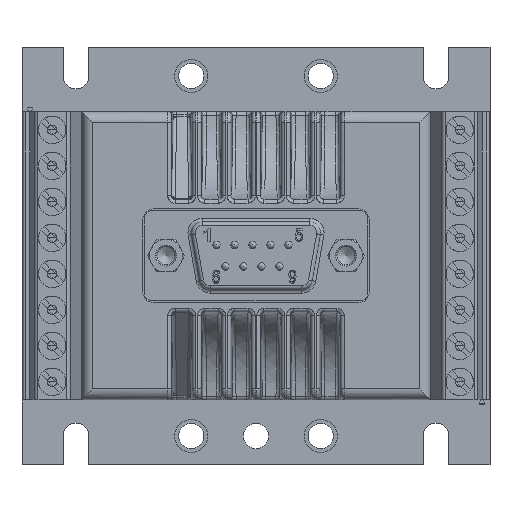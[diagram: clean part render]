
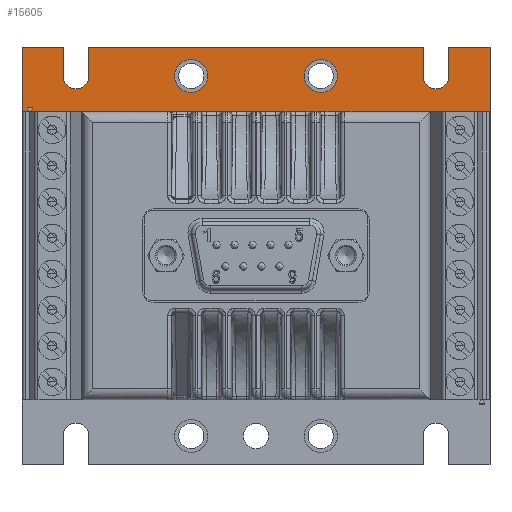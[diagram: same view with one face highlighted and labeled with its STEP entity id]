
A CAD part, top view. The second image highlights one B-rep face of the part: STEP entity #15605.
In plain terms, the highlighted planar face has unit normal (0, 0, 1).
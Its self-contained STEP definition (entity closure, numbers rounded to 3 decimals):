
#10195=PLANE('',#34053);
#11112=LINE('',#44232,#13349);
#11113=LINE('',#44235,#13350);
#11114=LINE('',#44237,#13351);
#11115=LINE('',#44239,#13352);
#11116=LINE('',#44243,#13353);
#11117=LINE('',#44245,#13354);
#11118=LINE('',#44247,#13355);
#11119=LINE('',#44251,#13356);
#11120=LINE('',#44253,#13357);
#11121=LINE('',#44255,#13358);
#13349=VECTOR('',#36703,1.);
#13350=VECTOR('',#36704,1.);
#13351=VECTOR('',#36705,1.);
#13352=VECTOR('',#36706,1.);
#13353=VECTOR('',#36709,1.);
#13354=VECTOR('',#36710,1.);
#13355=VECTOR('',#36711,1.);
#13356=VECTOR('',#36714,1.);
#13357=VECTOR('',#36715,1.);
#13358=VECTOR('',#36716,1.);
#15605=ADVANCED_FACE('',(#17277,#17278,#17279),#10195,.T.);
#17277=FACE_BOUND('',#17676,.T.);
#17278=FACE_BOUND('',#17677,.T.);
#17279=FACE_BOUND('',#17678,.T.);
#17676=EDGE_LOOP('',(#19505,#19506,#19507,#19508,#19509,#19510,#19511,#19512,
#19513,#19514,#19515,#19516));
#17677=EDGE_LOOP('',(#19517));
#17678=EDGE_LOOP('',(#19518));
#19505=ORIENTED_EDGE('',*,*,#29299,.F.);
#19506=ORIENTED_EDGE('',*,*,#29300,.F.);
#19507=ORIENTED_EDGE('',*,*,#29301,.F.);
#19508=ORIENTED_EDGE('',*,*,#29302,.T.);
#19509=ORIENTED_EDGE('',*,*,#29303,.F.);
#19510=ORIENTED_EDGE('',*,*,#29304,.F.);
#19511=ORIENTED_EDGE('',*,*,#29305,.F.);
#19512=ORIENTED_EDGE('',*,*,#29306,.T.);
#19513=ORIENTED_EDGE('',*,*,#29307,.T.);
#19514=ORIENTED_EDGE('',*,*,#29308,.F.);
#19515=ORIENTED_EDGE('',*,*,#29309,.F.);
#19516=ORIENTED_EDGE('',*,*,#29310,.F.);
#19517=ORIENTED_EDGE('',*,*,#29311,.T.);
#19518=ORIENTED_EDGE('',*,*,#29312,.T.);
#26937=VERTEX_POINT('',#44233);
#26938=VERTEX_POINT('',#44234);
#26939=VERTEX_POINT('',#44236);
#26940=VERTEX_POINT('',#44238);
#26941=VERTEX_POINT('',#44240);
#26942=VERTEX_POINT('',#44242);
#26943=VERTEX_POINT('',#44244);
#26944=VERTEX_POINT('',#44246);
#26945=VERTEX_POINT('',#44248);
#26946=VERTEX_POINT('',#44250);
#26947=VERTEX_POINT('',#44252);
#26948=VERTEX_POINT('',#44254);
#26949=VERTEX_POINT('',#44257);
#26950=VERTEX_POINT('',#44259);
#29299=EDGE_CURVE('',#26937,#26938,#11112,.T.);
#29300=EDGE_CURVE('',#26939,#26937,#11113,.T.);
#29301=EDGE_CURVE('',#26940,#26939,#11114,.T.);
#29302=EDGE_CURVE('',#26940,#26941,#11115,.T.);
#29303=EDGE_CURVE('',#26942,#26941,#33015,.T.);
#29304=EDGE_CURVE('',#26943,#26942,#11116,.T.);
#29305=EDGE_CURVE('',#26944,#26943,#11117,.T.);
#29306=EDGE_CURVE('',#26944,#26945,#11118,.T.);
#29307=EDGE_CURVE('',#26945,#26946,#33016,.T.);
#29308=EDGE_CURVE('',#26947,#26946,#11119,.T.);
#29309=EDGE_CURVE('',#26948,#26947,#11120,.T.);
#29310=EDGE_CURVE('',#26938,#26948,#11121,.T.);
#29311=EDGE_CURVE('',#26949,#26949,#33017,.T.);
#29312=EDGE_CURVE('',#26950,#26950,#33018,.T.);
#33015=CIRCLE('',#34049,1.8);
#33016=CIRCLE('',#34050,1.8);
#33017=CIRCLE('',#34051,2.3);
#33018=CIRCLE('',#34052,2.3);
#34049=AXIS2_PLACEMENT_3D('',#44241,#36707,#36708);
#34050=AXIS2_PLACEMENT_3D('',#44249,#36712,#36713);
#34051=AXIS2_PLACEMENT_3D('',#44256,#36717,#36718);
#34052=AXIS2_PLACEMENT_3D('',#44258,#36719,#36720);
#34053=AXIS2_PLACEMENT_3D('',#44260,#36721,#36722);
#36703=DIRECTION('',(-1.,0.,0.));
#36704=DIRECTION('',(0.,-1.,0.));
#36705=DIRECTION('',(1.,0.,0.));
#36706=DIRECTION('',(0.,-1.,0.));
#36707=DIRECTION('',(0.,0.,1.));
#36708=DIRECTION('',(-1.,0.,0.));
#36709=DIRECTION('',(0.,-1.,0.));
#36710=DIRECTION('',(1.,0.,0.));
#36711=DIRECTION('',(0.,-1.,0.));
#36712=DIRECTION('',(0.,0.,-1.));
#36713=DIRECTION('',(1.,0.,0.));
#36714=DIRECTION('',(0.,-1.,0.));
#36715=DIRECTION('',(1.,0.,0.));
#36716=DIRECTION('',(0.,1.,0.));
#36717=DIRECTION('',(0.,0.,-1.));
#36718=DIRECTION('',(-1.,0.,0.));
#36719=DIRECTION('',(0.,0.,-1.));
#36720=DIRECTION('',(-1.,0.,0.));
#36721=DIRECTION('',(0.,0.,1.));
#36722=DIRECTION('',(-1.,0.,0.));
#44232=CARTESIAN_POINT('',(0.,20.,0.));
#44233=CARTESIAN_POINT('',(32.5,20.,0.));
#44234=CARTESIAN_POINT('',(-32.5,20.,0.));
#44235=CARTESIAN_POINT('',(32.5,0.,0.));
#44236=CARTESIAN_POINT('',(32.5,29.,0.));
#44237=CARTESIAN_POINT('',(0.,29.,0.));
#44238=CARTESIAN_POINT('',(26.8,29.,0.));
#44239=CARTESIAN_POINT('',(26.8,33.2,0.));
#44240=CARTESIAN_POINT('',(26.8,25.,0.));
#44241=CARTESIAN_POINT('',(25.,25.,0.));
#44242=CARTESIAN_POINT('',(23.2,25.,0.));
#44243=CARTESIAN_POINT('',(23.2,33.2,0.));
#44244=CARTESIAN_POINT('',(23.2,29.,0.));
#44245=CARTESIAN_POINT('',(0.,29.,0.));
#44246=CARTESIAN_POINT('',(-23.2,29.,0.));
#44247=CARTESIAN_POINT('',(-23.2,33.2,0.));
#44248=CARTESIAN_POINT('',(-23.2,25.,0.));
#44249=CARTESIAN_POINT('',(-25.,25.,0.));
#44250=CARTESIAN_POINT('',(-26.8,25.,0.));
#44251=CARTESIAN_POINT('',(-26.8,33.2,0.));
#44252=CARTESIAN_POINT('',(-26.8,29.,0.));
#44253=CARTESIAN_POINT('',(0.,29.,0.));
#44254=CARTESIAN_POINT('',(-32.5,29.,0.));
#44255=CARTESIAN_POINT('',(-32.5,0.,0.));
#44256=CARTESIAN_POINT('',(-9.,25.,0.));
#44257=CARTESIAN_POINT('',(-11.3,25.,0.));
#44258=CARTESIAN_POINT('',(9.,25.,0.));
#44259=CARTESIAN_POINT('',(6.7,25.,0.));
#44260=CARTESIAN_POINT('',(0.,0.,0.));
